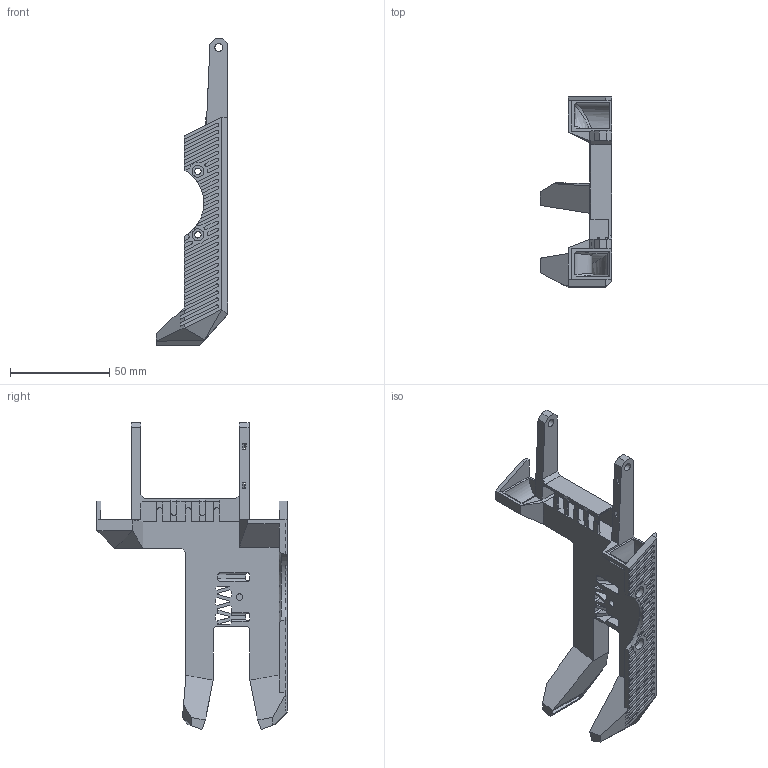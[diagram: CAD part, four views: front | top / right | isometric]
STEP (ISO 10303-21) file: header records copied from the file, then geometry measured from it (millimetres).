
FILE_DESCRIPTION(/* description */ ('CAx-IF Rec.Pracs.---Representation and Presentation of Product Manufacturing Information (PMI)---4.0---2014-10-13','CAx-IF Rec.Pracs.---3D Tessellated Geometry---0.4---2014-09-14','2;1'),/* implementation_level */ '2;1');
FILE_NAME(/* name */ 'B1G5015R',/* time_stamp */ '2025-06-16T17:36:51+03:00',/* author */ (''),/* organization */ (''),/* preprocessor_version */ 'ST-DEVELOPER v20',/* originating_system */ 'SIEMENS PLM Software NX2406.6001',/* authorisation */ $);
FILE_SCHEMA (('AP242_MANAGED_MODEL_BASED_3D_ENGINEERING_MIM_LF { 1 0 10303 442 3 1 4 }'));
Length unit declared in the file: millimetre
Products named in the file (1): B1G5015R
Bounding box: 36 x 95.85 x 154.62 mm (x, y, z)
Volume: 45234.6 mm3; surface area: 36802.1 mm2
Topology: 1 solids, 1 shells, 625 faces, 1728 edges, 1128 vertices
Faces by surface type: plane 471, cylinder 109, bspline 44, cone 1
Full cylindrical faces by diameter (mm): 1 x2, 3.2 x3, 4 x2, 6 x3
Entity records: 21958 total; most frequent: CARTESIAN_POINT 6150, ORIENTED_EDGE 3424, DIRECTION 2982, EDGE_CURVE 1712, LINE 1338, VECTOR 1338, VERTEX_POINT 1122, AXIS2_PLACEMENT_3D 822
